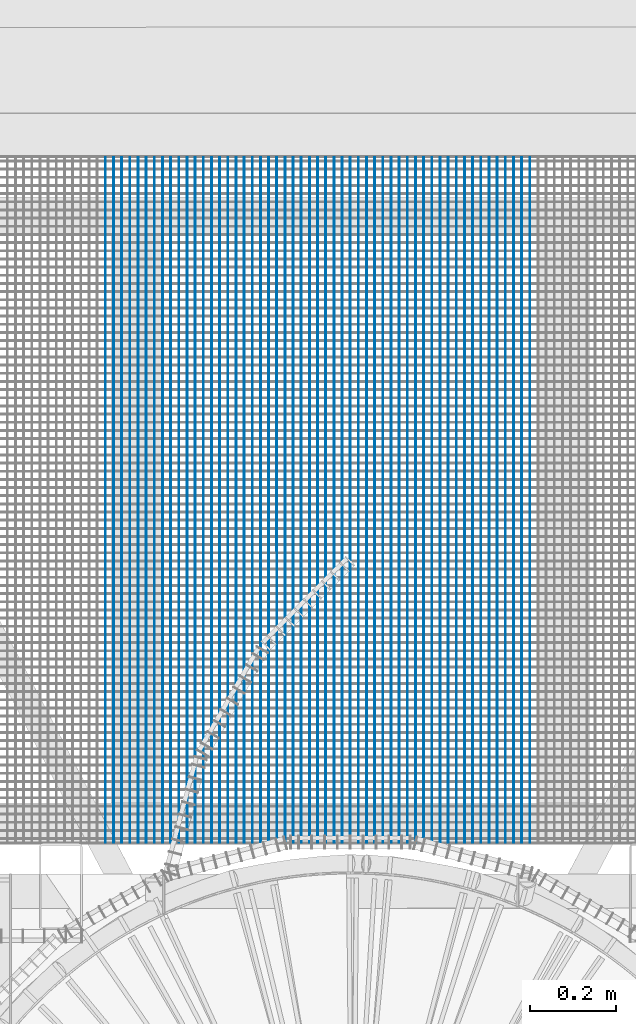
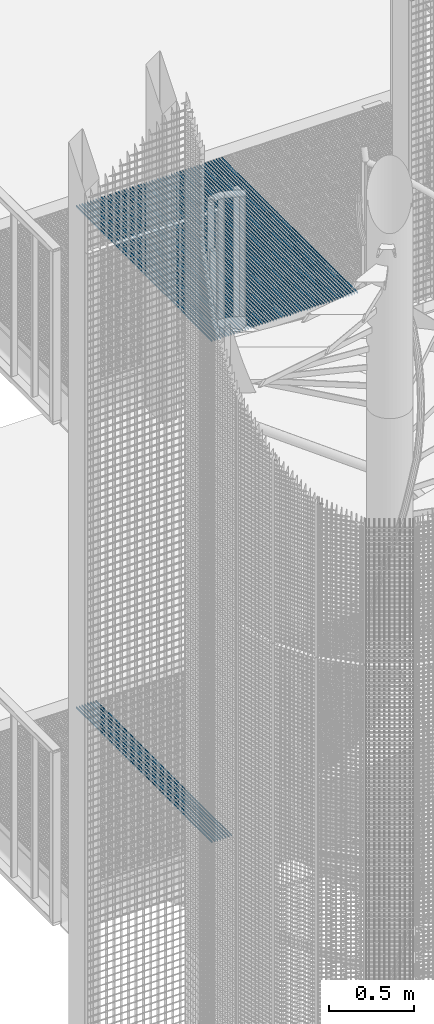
# One storey, part 83 of 1183: 61 beams, 2 elements without a shape of their own.
"""IFC2X3 building model written with IfcOpenShell, lengths in millimetres."""

from ifc_helpers import new_model, si_unit, frame, origin_with_axes, origin_2d_with_axis, place, context, subcontext, project, spatial, rectangle, extrude, material, type_object, element, aggregate, save


model = new_model("IFC2X3")

# Units and contexts
model_context = context("Model", 3, precision=1e-05, world=origin_with_axes())
body_context = subcontext(model_context, "Body", "Model", "MODEL_VIEW")
ifc_project = project(units=[si_unit("LENGTHUNIT", "METRE", prefix="MILLI"), si_unit("AREAUNIT", "SQUARE_METRE"), si_unit("VOLUMEUNIT", "CUBIC_METRE"), si_unit("MASSUNIT", "GRAM", prefix="KILO"), si_unit("TIMEUNIT", "SECOND"), si_unit("PLANEANGLEUNIT", "RADIAN"), si_unit("SOLIDANGLEUNIT", "STERADIAN"), si_unit("THERMODYNAMICTEMPERATUREUNIT", "DEGREE_CELSIUS"), si_unit("LUMINOUSINTENSITYUNIT", "LUMEN")], contexts=[model_context])

# Site, building, storey
site_placement = place(None, origin_with_axes())
site = spatial("IfcSite", under=ifc_project, at=site_placement, Name="Undefined", CompositionType="ELEMENT")
building_placement = place(site_placement, origin_with_axes())
building = spatial("IfcBuilding", under=site, at=building_placement, Name="Undefined", CompositionType="ELEMENT")
storey_placement = place(building_placement, origin_with_axes())
storey = spatial("IfcBuildingStorey", under=building, at=storey_placement, Name="Undefined", CompositionType="ELEMENT", Elevation=0.0)

# Assembly, beams
assembly_1_placement = place(storey_placement, origin_with_axes())
assembly_1 = element("IfcElementAssembly", 1, at=assembly_1_placement, inside=storey, Name="BORDURE", AssemblyPlace="NOTDEFINED", PredefinedType="NOTDEFINED")
ifc_material = material(Name="STEEL/S235JR")
beam_type = type_object("IfcBeamType", Name="PL2*10", PredefinedType="NOTDEFINED")
beam_1_placement = place(assembly_1_placement, frame((-569.924575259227, 1101.99951347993, 10085.0), z_axis=(0.0, 0.0, 1.0), x_axis=(-4.50599999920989e-06, 0.999999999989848, 0.0)))
beam_1 = element("IfcBeam", 2, at=beam_1_placement, type_object=beam_type, material=ifc_material, Name="ENTRETOISE", context=body_context, shape_type="SweptSolid", body=[
    extrude(rectangle(XDim=2.0, YDim=10.0, at=origin_2d_with_axis()), frame((1596.0000000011, -1.35186458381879e-18, -7.27595761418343e-12), z_axis=(-1.0, 0.0, 0.0), x_axis=(0.0, -1.0, 0.0)), (0.0, 0.0, 1.0), 1596.0),
])
beam_2_placement = place(assembly_1_placement, frame((-550.924575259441, 1101.99960699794, 10085.0), z_axis=(0.0, 0.0, 1.0), x_axis=(-4.50599999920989e-06, 0.999999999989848, 0.0)))
beam_2 = element("IfcBeam", 3, at=beam_2_placement, type_object=beam_type, material=ifc_material, Name="ENTRETOISE", context=body_context, shape_type="SweptSolid", body=[
    extrude(rectangle(XDim=2.0, YDim=10.0, at=origin_2d_with_axis()), frame((1596.0000000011, -1.35186458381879e-18, -7.27595761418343e-12), z_axis=(-1.0, 0.0, 0.0), x_axis=(0.0, -1.0, 0.0)), (0.0, 0.0, 1.0), 1596.0),
])
beam_3_placement = place(assembly_1_placement, frame((-531.924575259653, 1101.99970051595, 10085.0), z_axis=(0.0, 0.0, 1.0), x_axis=(-4.50599999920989e-06, 0.999999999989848, 0.0)))
beam_3 = element("IfcBeam", 4, at=beam_3_placement, type_object=beam_type, material=ifc_material, Name="ENTRETOISE", context=body_context, shape_type="SweptSolid", body=[
    extrude(rectangle(XDim=2.0, YDim=10.0, at=origin_2d_with_axis()), frame((1596.0000000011, -1.35186458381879e-18, -7.27595761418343e-12), z_axis=(-1.0, 0.0, 0.0), x_axis=(0.0, -1.0, 0.0)), (0.0, 0.0, 1.0), 1596.0),
])
beam_4_placement = place(assembly_1_placement, frame((-512.924575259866, 1101.99979403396, 10085.0), z_axis=(0.0, 0.0, 1.0), x_axis=(-4.50599999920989e-06, 0.999999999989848, 0.0)))
beam_4 = element("IfcBeam", 5, at=beam_4_placement, type_object=beam_type, material=ifc_material, Name="ENTRETOISE", context=body_context, shape_type="SweptSolid", body=[
    extrude(rectangle(XDim=2.0, YDim=10.0, at=origin_2d_with_axis()), frame((1596.0000000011, -1.35186458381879e-18, -7.27595761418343e-12), z_axis=(-1.0, 0.0, 0.0), x_axis=(0.0, -1.0, 0.0)), (0.0, 0.0, 1.0), 1596.0),
])
beam_5_placement = place(assembly_1_placement, frame((-493.92457526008, 1101.99988755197, 10085.0), z_axis=(0.0, 0.0, 1.0), x_axis=(-4.50599999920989e-06, 0.999999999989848, 0.0)))
beam_5 = element("IfcBeam", 6, at=beam_5_placement, type_object=beam_type, material=ifc_material, Name="ENTRETOISE", context=body_context, shape_type="SweptSolid", body=[
    extrude(rectangle(XDim=2.0, YDim=10.0, at=origin_2d_with_axis()), frame((1596.0000000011, -1.35186458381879e-18, -7.27595761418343e-12), z_axis=(-1.0, 0.0, 0.0), x_axis=(0.0, -1.0, 0.0)), (0.0, 0.0, 1.0), 1596.0),
])
beam_6_placement = place(assembly_1_placement, frame((-474.924575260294, 1101.99998106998, 10085.0), z_axis=(0.0, 0.0, 1.0), x_axis=(-4.50599999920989e-06, 0.999999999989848, 0.0)))
beam_6 = element("IfcBeam", 7, at=beam_6_placement, type_object=beam_type, material=ifc_material, Name="ENTRETOISE", context=body_context, shape_type="SweptSolid", body=[
    extrude(rectangle(XDim=2.0, YDim=10.0, at=origin_2d_with_axis()), frame((1596.0000000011, -1.35186458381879e-18, -7.27595761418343e-12), z_axis=(-1.0, 0.0, 0.0), x_axis=(0.0, -1.0, 0.0)), (0.0, 0.0, 1.0), 1596.0),
])
beam_7_placement = place(assembly_1_placement, frame((-455.924575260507, 1102.00007458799, 10085.0), z_axis=(0.0, 0.0, 1.0), x_axis=(-4.50599999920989e-06, 0.999999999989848, 0.0)))
beam_7 = element("IfcBeam", 8, at=beam_7_placement, type_object=beam_type, material=ifc_material, Name="ENTRETOISE", context=body_context, shape_type="SweptSolid", body=[
    extrude(rectangle(XDim=2.0, YDim=10.0, at=origin_2d_with_axis()), frame((1596.0000000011, -1.35186458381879e-18, -7.27595761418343e-12), z_axis=(-1.0, 0.0, 0.0), x_axis=(0.0, -1.0, 0.0)), (0.0, 0.0, 1.0), 1596.0),
])
beam_8_placement = place(assembly_1_placement, frame((-436.92457526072, 1102.00016810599, 10085.0), z_axis=(0.0, 0.0, 1.0), x_axis=(-4.50599999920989e-06, 0.999999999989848, 0.0)))
beam_8 = element("IfcBeam", 9, at=beam_8_placement, type_object=beam_type, material=ifc_material, Name="ENTRETOISE", context=body_context, shape_type="SweptSolid", body=[
    extrude(rectangle(XDim=2.0, YDim=10.0, at=origin_2d_with_axis()), frame((1596.0000000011, -1.35186458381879e-18, -7.27595761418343e-12), z_axis=(-1.0, 0.0, 0.0), x_axis=(0.0, -1.0, 0.0)), (0.0, 0.0, 1.0), 1596.0),
])
beam_9_placement = place(assembly_1_placement, frame((-417.924575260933, 1102.000261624, 10085.0), z_axis=(0.0, 0.0, 1.0), x_axis=(-4.50599999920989e-06, 0.999999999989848, 0.0)))
beam_9 = element("IfcBeam", 10, at=beam_9_placement, type_object=beam_type, material=ifc_material, Name="ENTRETOISE", context=body_context, shape_type="SweptSolid", body=[
    extrude(rectangle(XDim=2.0, YDim=10.0, at=origin_2d_with_axis()), frame((1596.0000000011, -1.35186458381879e-18, -7.27595761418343e-12), z_axis=(-1.0, 0.0, 0.0), x_axis=(0.0, -1.0, 0.0)), (0.0, 0.0, 1.0), 1596.0),
])
beam_10_placement = place(assembly_1_placement, frame((-398.924575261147, 1102.00035514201, 10085.0), z_axis=(0.0, 0.0, 1.0), x_axis=(-4.50599999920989e-06, 0.999999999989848, 0.0)))
beam_10 = element("IfcBeam", 11, at=beam_10_placement, type_object=beam_type, material=ifc_material, Name="ENTRETOISE", context=body_context, shape_type="SweptSolid", body=[
    extrude(rectangle(XDim=2.0, YDim=10.0, at=origin_2d_with_axis()), frame((1596.0000000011, -1.35186458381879e-18, -7.27595761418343e-12), z_axis=(-1.0, 0.0, 0.0), x_axis=(0.0, -1.0, 0.0)), (0.0, 0.0, 1.0), 1596.0),
])
beam_11_placement = place(assembly_1_placement, frame((-379.92457526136, 1102.00044866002, 10085.0), z_axis=(0.0, 0.0, 1.0), x_axis=(-4.50599999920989e-06, 0.999999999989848, 0.0)))
beam_11 = element("IfcBeam", 12, at=beam_11_placement, type_object=beam_type, material=ifc_material, Name="ENTRETOISE", context=body_context, shape_type="SweptSolid", body=[
    extrude(rectangle(XDim=2.0, YDim=10.0, at=origin_2d_with_axis()), frame((1596.0000000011, -1.35186458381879e-18, -7.27595761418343e-12), z_axis=(-1.0, 0.0, 0.0), x_axis=(0.0, -1.0, 0.0)), (0.0, 0.0, 1.0), 1596.0),
])
beam_12_placement = place(assembly_1_placement, frame((-360.924575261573, 1102.00054217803, 10085.0), z_axis=(0.0, 0.0, 1.0), x_axis=(-4.50599999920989e-06, 0.999999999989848, 0.0)))
beam_12 = element("IfcBeam", 13, at=beam_12_placement, type_object=beam_type, material=ifc_material, Name="ENTRETOISE", context=body_context, shape_type="SweptSolid", body=[
    extrude(rectangle(XDim=2.0, YDim=10.0, at=origin_2d_with_axis()), frame((1596.0000000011, -1.35186458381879e-18, -7.27595761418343e-12), z_axis=(-1.0, 0.0, 0.0), x_axis=(0.0, -1.0, 0.0)), (0.0, 0.0, 1.0), 1596.0),
])
beam_13_placement = place(assembly_1_placement, frame((-341.924575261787, 1102.00063569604, 10085.0), z_axis=(0.0, 0.0, 1.0), x_axis=(-4.50599999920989e-06, 0.999999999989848, 0.0)))
beam_13 = element("IfcBeam", 14, at=beam_13_placement, type_object=beam_type, material=ifc_material, Name="ENTRETOISE", context=body_context, shape_type="SweptSolid", body=[
    extrude(rectangle(XDim=2.0, YDim=10.0, at=origin_2d_with_axis()), frame((1596.0000000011, -1.35186458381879e-18, -7.27595761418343e-12), z_axis=(-1.0, 0.0, 0.0), x_axis=(0.0, -1.0, 0.0)), (0.0, 0.0, 1.0), 1596.0),
])
beam_14_placement = place(assembly_1_placement, frame((-322.924575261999, 1102.00072921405, 10085.0), z_axis=(0.0, 0.0, 1.0), x_axis=(-4.50599999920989e-06, 0.999999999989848, 0.0)))
beam_14 = element("IfcBeam", 15, at=beam_14_placement, type_object=beam_type, material=ifc_material, Name="ENTRETOISE", context=body_context, shape_type="SweptSolid", body=[
    extrude(rectangle(XDim=2.0, YDim=10.0, at=origin_2d_with_axis()), frame((1596.0000000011, -1.35186458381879e-18, -7.27595761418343e-12), z_axis=(-1.0, 0.0, 0.0), x_axis=(0.0, -1.0, 0.0)), (0.0, 0.0, 1.0), 1596.0),
])
beam_15_placement = place(assembly_1_placement, frame((-303.924575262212, 1102.00082273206, 10085.0), z_axis=(0.0, 0.0, 1.0), x_axis=(-4.50599999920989e-06, 0.999999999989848, 0.0)))
beam_15 = element("IfcBeam", 16, at=beam_15_placement, type_object=beam_type, material=ifc_material, Name="ENTRETOISE", context=body_context, shape_type="SweptSolid", body=[
    extrude(rectangle(XDim=2.0, YDim=10.0, at=origin_2d_with_axis()), frame((1596.0000000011, -1.35186458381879e-18, -7.27595761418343e-12), z_axis=(-1.0, 0.0, 0.0), x_axis=(0.0, -1.0, 0.0)), (0.0, 0.0, 1.0), 1596.0),
])
beam_16_placement = place(assembly_1_placement, frame((-284.924575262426, 1102.00091625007, 10085.0), z_axis=(0.0, 0.0, 1.0), x_axis=(-4.50599999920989e-06, 0.999999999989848, 0.0)))
beam_16 = element("IfcBeam", 17, at=beam_16_placement, type_object=beam_type, material=ifc_material, Name="ENTRETOISE", context=body_context, shape_type="SweptSolid", body=[
    extrude(rectangle(XDim=2.0, YDim=10.0, at=origin_2d_with_axis()), frame((1596.0000000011, -1.35186458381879e-18, -7.27595761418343e-12), z_axis=(-1.0, 0.0, 0.0), x_axis=(0.0, -1.0, 0.0)), (0.0, 0.0, 1.0), 1596.0),
])
beam_17_placement = place(assembly_1_placement, frame((-265.924575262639, 1102.00100976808, 10085.0), z_axis=(0.0, 0.0, 1.0), x_axis=(-4.50599999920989e-06, 0.999999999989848, 0.0)))
beam_17 = element("IfcBeam", 18, at=beam_17_placement, type_object=beam_type, material=ifc_material, Name="ENTRETOISE", context=body_context, shape_type="SweptSolid", body=[
    extrude(rectangle(XDim=2.0, YDim=10.0, at=origin_2d_with_axis()), frame((1596.0000000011, -1.35186458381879e-18, -7.27595761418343e-12), z_axis=(-1.0, 0.0, 0.0), x_axis=(0.0, -1.0, 0.0)), (0.0, 0.0, 1.0), 1596.0),
])
beam_18_placement = place(assembly_1_placement, frame((-246.924575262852, 1102.00110328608, 10085.0), z_axis=(0.0, 0.0, 1.0), x_axis=(-4.50599999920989e-06, 0.999999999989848, 0.0)))
beam_18 = element("IfcBeam", 19, at=beam_18_placement, type_object=beam_type, material=ifc_material, Name="ENTRETOISE", context=body_context, shape_type="SweptSolid", body=[
    extrude(rectangle(XDim=2.0, YDim=10.0, at=origin_2d_with_axis()), frame((1596.0000000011, -1.35186458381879e-18, -7.27595761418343e-12), z_axis=(-1.0, 0.0, 0.0), x_axis=(0.0, -1.0, 0.0)), (0.0, 0.0, 1.0), 1596.0),
])
beam_19_placement = place(assembly_1_placement, frame((-227.924575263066, 1102.00119680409, 10085.0), z_axis=(0.0, 0.0, 1.0), x_axis=(-4.50599999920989e-06, 0.999999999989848, 0.0)))
beam_19 = element("IfcBeam", 20, at=beam_19_placement, type_object=beam_type, material=ifc_material, Name="ENTRETOISE", context=body_context, shape_type="SweptSolid", body=[
    extrude(rectangle(XDim=2.0, YDim=10.0, at=origin_2d_with_axis()), frame((1596.0000000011, -1.35186458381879e-18, -7.27595761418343e-12), z_axis=(-1.0, 0.0, 0.0), x_axis=(0.0, -1.0, 0.0)), (0.0, 0.0, 1.0), 1596.0),
])
beam_20_placement = place(assembly_1_placement, frame((-208.924575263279, 1102.0012903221, 10085.0), z_axis=(0.0, 0.0, 1.0), x_axis=(-4.50599999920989e-06, 0.999999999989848, 0.0)))
beam_20 = element("IfcBeam", 21, at=beam_20_placement, type_object=beam_type, material=ifc_material, Name="ENTRETOISE", context=body_context, shape_type="SweptSolid", body=[
    extrude(rectangle(XDim=2.0, YDim=10.0, at=origin_2d_with_axis()), frame((1596.0000000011, -1.35186458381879e-18, -7.27595761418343e-12), z_axis=(-1.0, 0.0, 0.0), x_axis=(0.0, -1.0, 0.0)), (0.0, 0.0, 1.0), 1596.0),
])
beam_21_placement = place(assembly_1_placement, frame((-189.924575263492, 1102.00138384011, 10085.0), z_axis=(0.0, 0.0, 1.0), x_axis=(-4.50599999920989e-06, 0.999999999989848, 0.0)))
beam_21 = element("IfcBeam", 22, at=beam_21_placement, type_object=beam_type, material=ifc_material, Name="ENTRETOISE", context=body_context, shape_type="SweptSolid", body=[
    extrude(rectangle(XDim=2.0, YDim=10.0, at=origin_2d_with_axis()), frame((1596.0000000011, -1.35186458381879e-18, -7.27595761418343e-12), z_axis=(-1.0, 0.0, 0.0), x_axis=(0.0, -1.0, 0.0)), (0.0, 0.0, 1.0), 1596.0),
])
beam_22_placement = place(assembly_1_placement, frame((-170.924575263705, 1102.00147735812, 10085.0), z_axis=(0.0, 0.0, 1.0), x_axis=(-4.50599999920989e-06, 0.999999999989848, 0.0)))
beam_22 = element("IfcBeam", 23, at=beam_22_placement, type_object=beam_type, material=ifc_material, Name="ENTRETOISE", context=body_context, shape_type="SweptSolid", body=[
    extrude(rectangle(XDim=2.0, YDim=10.0, at=origin_2d_with_axis()), frame((1596.0000000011, -1.35186458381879e-18, -7.27595761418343e-12), z_axis=(-1.0, 0.0, 0.0), x_axis=(0.0, -1.0, 0.0)), (0.0, 0.0, 1.0), 1596.0),
])
beam_23_placement = place(assembly_1_placement, frame((-151.924575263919, 1102.00157087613, 10085.0), z_axis=(0.0, 0.0, 1.0), x_axis=(-4.50599999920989e-06, 0.999999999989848, 0.0)))
beam_23 = element("IfcBeam", 24, at=beam_23_placement, type_object=beam_type, material=ifc_material, Name="ENTRETOISE", context=body_context, shape_type="SweptSolid", body=[
    extrude(rectangle(XDim=2.0, YDim=10.0, at=origin_2d_with_axis()), frame((1596.0000000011, -1.35186458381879e-18, -7.27595761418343e-12), z_axis=(-1.0, 0.0, 0.0), x_axis=(0.0, -1.0, 0.0)), (0.0, 0.0, 1.0), 1596.0),
])
beam_24_placement = place(assembly_1_placement, frame((-132.924575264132, 1102.00166439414, 10085.0), z_axis=(0.0, 0.0, 1.0), x_axis=(-4.50599999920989e-06, 0.999999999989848, 0.0)))
beam_24 = element("IfcBeam", 25, at=beam_24_placement, type_object=beam_type, material=ifc_material, Name="ENTRETOISE", context=body_context, shape_type="SweptSolid", body=[
    extrude(rectangle(XDim=2.0, YDim=10.0, at=origin_2d_with_axis()), frame((1596.0000000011, -1.35186458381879e-18, -7.27595761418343e-12), z_axis=(-1.0, 0.0, 0.0), x_axis=(0.0, -1.0, 0.0)), (0.0, 0.0, 1.0), 1596.0),
])
beam_25_placement = place(assembly_1_placement, frame((-113.924575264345, 1102.00175791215, 10085.0), z_axis=(0.0, 0.0, 1.0), x_axis=(-4.50599999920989e-06, 0.999999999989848, 0.0)))
beam_25 = element("IfcBeam", 26, at=beam_25_placement, type_object=beam_type, material=ifc_material, Name="ENTRETOISE", context=body_context, shape_type="SweptSolid", body=[
    extrude(rectangle(XDim=2.0, YDim=10.0, at=origin_2d_with_axis()), frame((1596.0000000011, -1.35186458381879e-18, -7.27595761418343e-12), z_axis=(-1.0, 0.0, 0.0), x_axis=(0.0, -1.0, 0.0)), (0.0, 0.0, 1.0), 1596.0),
])
beam_26_placement = place(assembly_1_placement, frame((-94.9245752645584, 1102.00185143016, 10085.0), z_axis=(0.0, 0.0, 1.0), x_axis=(-4.50599999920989e-06, 0.999999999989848, 0.0)))
beam_26 = element("IfcBeam", 27, at=beam_26_placement, type_object=beam_type, material=ifc_material, Name="ENTRETOISE", context=body_context, shape_type="SweptSolid", body=[
    extrude(rectangle(XDim=2.0, YDim=10.0, at=origin_2d_with_axis()), frame((1596.0000000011, -1.35186458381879e-18, -7.27595761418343e-12), z_axis=(-1.0, 0.0, 0.0), x_axis=(0.0, -1.0, 0.0)), (0.0, 0.0, 1.0), 1596.0),
])
beam_27_placement = place(assembly_1_placement, frame((-75.9245752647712, 1102.00194494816, 10085.0), z_axis=(0.0, 0.0, 1.0), x_axis=(-4.50599999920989e-06, 0.999999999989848, 0.0)))
beam_27 = element("IfcBeam", 28, at=beam_27_placement, type_object=beam_type, material=ifc_material, Name="ENTRETOISE", context=body_context, shape_type="SweptSolid", body=[
    extrude(rectangle(XDim=2.0, YDim=10.0, at=origin_2d_with_axis()), frame((1596.0000000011, -1.35186458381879e-18, -7.27595761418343e-12), z_axis=(-1.0, 0.0, 0.0), x_axis=(0.0, -1.0, 0.0)), (0.0, 0.0, 1.0), 1596.0),
])
beam_28_placement = place(assembly_1_placement, frame((-56.9245752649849, 1102.00203846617, 10085.0), z_axis=(0.0, 0.0, 1.0), x_axis=(-4.50599999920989e-06, 0.999999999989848, 0.0)))
beam_28 = element("IfcBeam", 29, at=beam_28_placement, type_object=beam_type, material=ifc_material, Name="ENTRETOISE", context=body_context, shape_type="SweptSolid", body=[
    extrude(rectangle(XDim=2.0, YDim=10.0, at=origin_2d_with_axis()), frame((1596.0000000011, -1.35186458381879e-18, -7.27595761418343e-12), z_axis=(-1.0, 0.0, 0.0), x_axis=(0.0, -1.0, 0.0)), (0.0, 0.0, 1.0), 1596.0),
])
beam_29_placement = place(assembly_1_placement, frame((-37.9245752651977, 1102.00213198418, 10085.0), z_axis=(0.0, 0.0, 1.0), x_axis=(-4.50599999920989e-06, 0.999999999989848, 0.0)))
beam_29 = element("IfcBeam", 30, at=beam_29_placement, type_object=beam_type, material=ifc_material, Name="ENTRETOISE", context=body_context, shape_type="SweptSolid", body=[
    extrude(rectangle(XDim=2.0, YDim=10.0, at=origin_2d_with_axis()), frame((1596.0000000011, -1.35186458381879e-18, -7.27595761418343e-12), z_axis=(-1.0, 0.0, 0.0), x_axis=(0.0, -1.0, 0.0)), (0.0, 0.0, 1.0), 1596.0),
])
beam_30_placement = place(assembly_1_placement, frame((-18.9245752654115, 1102.00222550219, 10085.0), z_axis=(0.0, 0.0, 1.0), x_axis=(-4.50599999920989e-06, 0.999999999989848, 0.0)))
beam_30 = element("IfcBeam", 31, at=beam_30_placement, type_object=beam_type, material=ifc_material, Name="ENTRETOISE", context=body_context, shape_type="SweptSolid", body=[
    extrude(rectangle(XDim=2.0, YDim=10.0, at=origin_2d_with_axis()), frame((1596.0000000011, -1.35186458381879e-18, -7.27595761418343e-12), z_axis=(-1.0, 0.0, 0.0), x_axis=(0.0, -1.0, 0.0)), (0.0, 0.0, 1.0), 1596.0),
])
beam_31_placement = place(assembly_1_placement, frame((0.075424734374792, 1102.0023190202, 10085.0), z_axis=(0.0, 0.0, 1.0), x_axis=(-4.50599999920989e-06, 0.999999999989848, 0.0)))
beam_31 = element("IfcBeam", 32, at=beam_31_placement, type_object=beam_type, material=ifc_material, Name="ENTRETOISE", context=body_context, shape_type="SweptSolid", body=[
    extrude(rectangle(XDim=2.0, YDim=10.0, at=origin_2d_with_axis()), frame((1596.0000000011, -1.35186458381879e-18, -7.27595761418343e-12), z_axis=(-1.0, 0.0, 0.0), x_axis=(0.0, -1.0, 0.0)), (0.0, 0.0, 1.0), 1596.0),
])
beam_32_placement = place(assembly_1_placement, frame((19.075424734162, 1102.00241253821, 10085.0), z_axis=(0.0, 0.0, 1.0), x_axis=(-4.50599999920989e-06, 0.999999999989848, 0.0)))
beam_32 = element("IfcBeam", 33, at=beam_32_placement, type_object=beam_type, material=ifc_material, Name="ENTRETOISE", context=body_context, shape_type="SweptSolid", body=[
    extrude(rectangle(XDim=2.0, YDim=10.0, at=origin_2d_with_axis()), frame((1596.0000000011, -1.35186458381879e-18, -7.27595761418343e-12), z_axis=(-1.0, 0.0, 0.0), x_axis=(0.0, -1.0, 0.0)), (0.0, 0.0, 1.0), 1596.0),
])
beam_33_placement = place(assembly_1_placement, frame((38.0754247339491, 1102.00250605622, 10085.0), z_axis=(0.0, 0.0, 1.0), x_axis=(-4.50599999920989e-06, 0.999999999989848, 0.0)))
beam_33 = element("IfcBeam", 34, at=beam_33_placement, type_object=beam_type, material=ifc_material, Name="ENTRETOISE", context=body_context, shape_type="SweptSolid", body=[
    extrude(rectangle(XDim=2.0, YDim=10.0, at=origin_2d_with_axis()), frame((1596.0000000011, -1.35186458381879e-18, -7.27595761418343e-12), z_axis=(-1.0, 0.0, 0.0), x_axis=(0.0, -1.0, 0.0)), (0.0, 0.0, 1.0), 1596.0),
])
beam_34_placement = place(assembly_1_placement, frame((57.0754247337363, 1102.00259957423, 10085.0), z_axis=(0.0, 0.0, 1.0), x_axis=(-4.50599999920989e-06, 0.999999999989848, 0.0)))
beam_34 = element("IfcBeam", 35, at=beam_34_placement, type_object=beam_type, material=ifc_material, Name="ENTRETOISE", context=body_context, shape_type="SweptSolid", body=[
    extrude(rectangle(XDim=2.0, YDim=10.0, at=origin_2d_with_axis()), frame((1596.0000000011, -1.35186458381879e-18, -7.27595761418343e-12), z_axis=(-1.0, 0.0, 0.0), x_axis=(0.0, -1.0, 0.0)), (0.0, 0.0, 1.0), 1596.0),
])
beam_35_placement = place(assembly_1_placement, frame((76.0754247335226, 1102.00269309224, 10085.0), z_axis=(0.0, 0.0, 1.0), x_axis=(-4.50599999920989e-06, 0.999999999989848, 0.0)))
beam_35 = element("IfcBeam", 36, at=beam_35_placement, type_object=beam_type, material=ifc_material, Name="ENTRETOISE", context=body_context, shape_type="SweptSolid", body=[
    extrude(rectangle(XDim=2.0, YDim=10.0, at=origin_2d_with_axis()), frame((1596.0000000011, -1.35186458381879e-18, -7.27595761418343e-12), z_axis=(-1.0, 0.0, 0.0), x_axis=(0.0, -1.0, 0.0)), (0.0, 0.0, 1.0), 1596.0),
])
beam_36_placement = place(assembly_1_placement, frame((95.0754247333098, 1102.00278661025, 10085.0), z_axis=(0.0, 0.0, 1.0), x_axis=(-4.50599999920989e-06, 0.999999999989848, 0.0)))
beam_36 = element("IfcBeam", 37, at=beam_36_placement, type_object=beam_type, material=ifc_material, Name="ENTRETOISE", context=body_context, shape_type="SweptSolid", body=[
    extrude(rectangle(XDim=2.0, YDim=10.0, at=origin_2d_with_axis()), frame((1596.0000000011, -1.35186458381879e-18, -7.27595761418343e-12), z_axis=(-1.0, 0.0, 0.0), x_axis=(0.0, -1.0, 0.0)), (0.0, 0.0, 1.0), 1596.0),
])
beam_37_placement = place(assembly_1_placement, frame((114.075424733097, 1102.00288012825, 10085.0), z_axis=(0.0, 0.0, 1.0), x_axis=(-4.50599999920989e-06, 0.999999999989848, 0.0)))
beam_37 = element("IfcBeam", 38, at=beam_37_placement, type_object=beam_type, material=ifc_material, Name="ENTRETOISE", context=body_context, shape_type="SweptSolid", body=[
    extrude(rectangle(XDim=2.0, YDim=10.0, at=origin_2d_with_axis()), frame((1596.0000000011, -1.35186458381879e-18, -7.27595761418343e-12), z_axis=(-1.0, 0.0, 0.0), x_axis=(0.0, -1.0, 0.0)), (0.0, 0.0, 1.0), 1596.0),
])
beam_38_placement = place(assembly_1_placement, frame((133.075424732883, 1102.00297364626, 10085.0), z_axis=(0.0, 0.0, 1.0), x_axis=(-4.50599999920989e-06, 0.999999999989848, 0.0)))
beam_38 = element("IfcBeam", 39, at=beam_38_placement, type_object=beam_type, material=ifc_material, Name="ENTRETOISE", context=body_context, shape_type="SweptSolid", body=[
    extrude(rectangle(XDim=2.0, YDim=10.0, at=origin_2d_with_axis()), frame((1596.0000000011, -1.35186458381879e-18, -7.27595761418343e-12), z_axis=(-1.0, 0.0, 0.0), x_axis=(0.0, -1.0, 0.0)), (0.0, 0.0, 1.0), 1596.0),
])
beam_39_placement = place(assembly_1_placement, frame((152.075424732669, 1102.00306716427, 10085.0), z_axis=(0.0, 0.0, 1.0), x_axis=(-4.50599999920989e-06, 0.999999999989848, 0.0)))
beam_39 = element("IfcBeam", 40, at=beam_39_placement, type_object=beam_type, material=ifc_material, Name="ENTRETOISE", context=body_context, shape_type="SweptSolid", body=[
    extrude(rectangle(XDim=2.0, YDim=10.0, at=origin_2d_with_axis()), frame((1596.0000000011, -1.35186458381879e-18, -7.27595761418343e-12), z_axis=(-1.0, 0.0, 0.0), x_axis=(0.0, -1.0, 0.0)), (0.0, 0.0, 1.0), 1596.0),
])
beam_40_placement = place(assembly_1_placement, frame((171.075424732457, 1102.00316068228, 10085.0), z_axis=(0.0, 0.0, 1.0), x_axis=(-4.50599999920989e-06, 0.999999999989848, 0.0)))
beam_40 = element("IfcBeam", 41, at=beam_40_placement, type_object=beam_type, material=ifc_material, Name="ENTRETOISE", context=body_context, shape_type="SweptSolid", body=[
    extrude(rectangle(XDim=2.0, YDim=10.0, at=origin_2d_with_axis()), frame((1596.0000000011, -1.35186458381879e-18, -7.27595761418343e-12), z_axis=(-1.0, 0.0, 0.0), x_axis=(0.0, -1.0, 0.0)), (0.0, 0.0, 1.0), 1596.0),
])
beam_41_placement = place(assembly_1_placement, frame((190.075424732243, 1102.00325420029, 10085.0), z_axis=(0.0, 0.0, 1.0), x_axis=(-4.50599999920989e-06, 0.999999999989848, 0.0)))
beam_41 = element("IfcBeam", 42, at=beam_41_placement, type_object=beam_type, material=ifc_material, Name="ENTRETOISE", context=body_context, shape_type="SweptSolid", body=[
    extrude(rectangle(XDim=2.0, YDim=10.0, at=origin_2d_with_axis()), frame((1596.0000000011, -1.35186458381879e-18, -7.27595761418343e-12), z_axis=(-1.0, 0.0, 0.0), x_axis=(0.0, -1.0, 0.0)), (0.0, 0.0, 1.0), 1596.0),
])
beam_42_placement = place(assembly_1_placement, frame((209.07542473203, 1102.0033477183, 10085.0), z_axis=(0.0, 0.0, 1.0), x_axis=(-4.50599999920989e-06, 0.999999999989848, 0.0)))
beam_42 = element("IfcBeam", 43, at=beam_42_placement, type_object=beam_type, material=ifc_material, Name="ENTRETOISE", context=body_context, shape_type="SweptSolid", body=[
    extrude(rectangle(XDim=2.0, YDim=10.0, at=origin_2d_with_axis()), frame((1596.0000000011, -1.35186458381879e-18, -7.27595761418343e-12), z_axis=(-1.0, 0.0, 0.0), x_axis=(0.0, -1.0, 0.0)), (0.0, 0.0, 1.0), 1596.0),
])
beam_43_placement = place(assembly_1_placement, frame((228.075424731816, 1102.00344123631, 10085.0), z_axis=(0.0, 0.0, 1.0), x_axis=(-4.50599999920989e-06, 0.999999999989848, 0.0)))
beam_43 = element("IfcBeam", 44, at=beam_43_placement, type_object=beam_type, material=ifc_material, Name="ENTRETOISE", context=body_context, shape_type="SweptSolid", body=[
    extrude(rectangle(XDim=2.0, YDim=10.0, at=origin_2d_with_axis()), frame((1596.0000000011, -1.35186458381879e-18, -7.27595761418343e-12), z_axis=(-1.0, 0.0, 0.0), x_axis=(0.0, -1.0, 0.0)), (0.0, 0.0, 1.0), 1596.0),
])
beam_44_placement = place(assembly_1_placement, frame((247.075424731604, 1102.00353475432, 10085.0), z_axis=(0.0, 0.0, 1.0), x_axis=(-4.50599999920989e-06, 0.999999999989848, 0.0)))
beam_44 = element("IfcBeam", 45, at=beam_44_placement, type_object=beam_type, material=ifc_material, Name="ENTRETOISE", context=body_context, shape_type="SweptSolid", body=[
    extrude(rectangle(XDim=2.0, YDim=10.0, at=origin_2d_with_axis()), frame((1596.0000000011, -1.35186458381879e-18, -7.27595761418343e-12), z_axis=(-1.0, 0.0, 0.0), x_axis=(0.0, -1.0, 0.0)), (0.0, 0.0, 1.0), 1596.0),
])
beam_45_placement = place(assembly_1_placement, frame((266.075424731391, 1102.00362827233, 10085.0), z_axis=(0.0, 0.0, 1.0), x_axis=(-4.50599999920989e-06, 0.999999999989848, 0.0)))
beam_45 = element("IfcBeam", 46, at=beam_45_placement, type_object=beam_type, material=ifc_material, Name="ENTRETOISE", context=body_context, shape_type="SweptSolid", body=[
    extrude(rectangle(XDim=2.0, YDim=10.0, at=origin_2d_with_axis()), frame((1596.0000000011, -1.35186458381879e-18, -7.27595761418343e-12), z_axis=(-1.0, 0.0, 0.0), x_axis=(0.0, -1.0, 0.0)), (0.0, 0.0, 1.0), 1596.0),
])
beam_46_placement = place(assembly_1_placement, frame((285.075424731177, 1102.00372179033, 10085.0), z_axis=(0.0, 0.0, 1.0), x_axis=(-4.50599999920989e-06, 0.999999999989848, 0.0)))
beam_46 = element("IfcBeam", 47, at=beam_46_placement, type_object=beam_type, material=ifc_material, Name="ENTRETOISE", context=body_context, shape_type="SweptSolid", body=[
    extrude(rectangle(XDim=2.0, YDim=10.0, at=origin_2d_with_axis()), frame((1596.0000000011, -1.35186458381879e-18, -7.27595761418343e-12), z_axis=(-1.0, 0.0, 0.0), x_axis=(0.0, -1.0, 0.0)), (0.0, 0.0, 1.0), 1596.0),
])
beam_47_placement = place(assembly_1_placement, frame((304.075424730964, 1102.00381530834, 10085.0), z_axis=(0.0, 0.0, 1.0), x_axis=(-4.50599999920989e-06, 0.999999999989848, 0.0)))
beam_47 = element("IfcBeam", 48, at=beam_47_placement, type_object=beam_type, material=ifc_material, Name="ENTRETOISE", context=body_context, shape_type="SweptSolid", body=[
    extrude(rectangle(XDim=2.0, YDim=10.0, at=origin_2d_with_axis()), frame((1596.0000000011, -1.35186458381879e-18, -7.27595761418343e-12), z_axis=(-1.0, 0.0, 0.0), x_axis=(0.0, -1.0, 0.0)), (0.0, 0.0, 1.0), 1596.0),
])
beam_48_placement = place(assembly_1_placement, frame((323.07542473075, 1102.00390882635, 10085.0), z_axis=(0.0, 0.0, 1.0), x_axis=(-4.50599999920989e-06, 0.999999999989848, 0.0)))
beam_48 = element("IfcBeam", 49, at=beam_48_placement, type_object=beam_type, material=ifc_material, Name="ENTRETOISE", context=body_context, shape_type="SweptSolid", body=[
    extrude(rectangle(XDim=2.0, YDim=10.0, at=origin_2d_with_axis()), frame((1596.0000000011, -1.35186458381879e-18, -7.27595761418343e-12), z_axis=(-1.0, 0.0, 0.0), x_axis=(0.0, -1.0, 0.0)), (0.0, 0.0, 1.0), 1596.0),
])
beam_49_placement = place(assembly_1_placement, frame((342.075424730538, 1102.00400234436, 10085.0), z_axis=(0.0, 0.0, 1.0), x_axis=(-4.50599999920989e-06, 0.999999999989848, 0.0)))
beam_49 = element("IfcBeam", 50, at=beam_49_placement, type_object=beam_type, material=ifc_material, Name="ENTRETOISE", context=body_context, shape_type="SweptSolid", body=[
    extrude(rectangle(XDim=2.0, YDim=10.0, at=origin_2d_with_axis()), frame((1596.0000000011, -1.35186458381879e-18, -7.27595761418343e-12), z_axis=(-1.0, 0.0, 0.0), x_axis=(0.0, -1.0, 0.0)), (0.0, 0.0, 1.0), 1596.0),
])
beam_50_placement = place(assembly_1_placement, frame((361.075424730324, 1102.00409586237, 10085.0), z_axis=(0.0, 0.0, 1.0), x_axis=(-4.50599999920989e-06, 0.999999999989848, 0.0)))
beam_50 = element("IfcBeam", 51, at=beam_50_placement, type_object=beam_type, material=ifc_material, Name="ENTRETOISE", context=body_context, shape_type="SweptSolid", body=[
    extrude(rectangle(XDim=2.0, YDim=10.0, at=origin_2d_with_axis()), frame((1596.0000000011, -1.35186458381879e-18, -7.27595761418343e-12), z_axis=(-1.0, 0.0, 0.0), x_axis=(0.0, -1.0, 0.0)), (0.0, 0.0, 1.0), 1596.0),
])
beam_51_placement = place(assembly_1_placement, frame((380.075424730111, 1102.00418938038, 10085.0), z_axis=(0.0, 0.0, 1.0), x_axis=(-4.50599999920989e-06, 0.999999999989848, 0.0)))
beam_51 = element("IfcBeam", 52, at=beam_51_placement, type_object=beam_type, material=ifc_material, Name="ENTRETOISE", context=body_context, shape_type="SweptSolid", body=[
    extrude(rectangle(XDim=2.0, YDim=10.0, at=origin_2d_with_axis()), frame((1596.0000000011, -1.35186458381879e-18, -7.27595761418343e-12), z_axis=(-1.0, 0.0, 0.0), x_axis=(0.0, -1.0, 0.0)), (0.0, 0.0, 1.0), 1596.0),
])
beam_52_placement = place(assembly_1_placement, frame((399.075424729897, 1102.00428289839, 10085.0), z_axis=(0.0, 0.0, 1.0), x_axis=(-4.50599999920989e-06, 0.999999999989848, 0.0)))
beam_52 = element("IfcBeam", 53, at=beam_52_placement, type_object=beam_type, material=ifc_material, Name="ENTRETOISE", context=body_context, shape_type="SweptSolid", body=[
    extrude(rectangle(XDim=2.0, YDim=10.0, at=origin_2d_with_axis()), frame((1596.0000000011, -1.35186458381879e-18, -7.27595761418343e-12), z_axis=(-1.0, 0.0, 0.0), x_axis=(0.0, -1.0, 0.0)), (0.0, 0.0, 1.0), 1596.0),
])
beam_53_placement = place(assembly_1_placement, frame((418.075424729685, 1102.0043764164, 10085.0), z_axis=(0.0, 0.0, 1.0), x_axis=(-4.50599999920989e-06, 0.999999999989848, 0.0)))
beam_53 = element("IfcBeam", 54, at=beam_53_placement, type_object=beam_type, material=ifc_material, Name="ENTRETOISE", context=body_context, shape_type="SweptSolid", body=[
    extrude(rectangle(XDim=2.0, YDim=10.0, at=origin_2d_with_axis()), frame((1596.0000000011, -1.35186458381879e-18, -7.27595761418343e-12), z_axis=(-1.0, 0.0, 0.0), x_axis=(0.0, -1.0, 0.0)), (0.0, 0.0, 1.0), 1596.0),
])
aggregate(assembly_1, [beam_1, beam_2, beam_3, beam_4, beam_5, beam_6, beam_7, beam_8, beam_9, beam_10, beam_11, beam_12, beam_13, beam_14, beam_15, beam_16, beam_17, beam_18, beam_19, beam_20, beam_21, beam_22, beam_23, beam_24, beam_25, beam_26, beam_27, beam_28, beam_29, beam_30, beam_31, beam_32, beam_33, beam_34, beam_35, beam_36, beam_37, beam_38, beam_39, beam_40, beam_41, beam_42, beam_43, beam_44, beam_45, beam_46, beam_47, beam_48, beam_49, beam_50, beam_51, beam_52, beam_53])

assembly_2_placement = place(storey_placement, origin_with_axes())
assembly_2 = element("IfcElementAssembly", 55, at=assembly_2_placement, inside=storey, Name="BORDURE", AssemblyPlace="NOTDEFINED", PredefinedType="NOTDEFINED")
beam_54_placement = place(assembly_2_placement, frame((-569.924575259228, 1101.99951347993, 6485.0), z_axis=(0.0, 0.0, 1.0), x_axis=(-4.50599999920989e-06, 0.999999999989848, 0.0)))
beam_54 = element("IfcBeam", 56, at=beam_54_placement, type_object=beam_type, material=ifc_material, Name="ENTRETOISE", context=body_context, shape_type="SweptSolid", body=[
    extrude(rectangle(XDim=2.0, YDim=10.0, at=origin_2d_with_axis()), frame((1596.0000000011, -1.35186458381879e-18, -7.27595761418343e-12), z_axis=(-1.0, 0.0, 0.0), x_axis=(0.0, -1.0, 0.0)), (0.0, 0.0, 1.0), 1596.0),
])
beam_55_placement = place(assembly_2_placement, frame((-550.924575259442, 1101.99960699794, 6485.0), z_axis=(0.0, 0.0, 1.0), x_axis=(-4.50599999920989e-06, 0.999999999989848, 0.0)))
beam_55 = element("IfcBeam", 57, at=beam_55_placement, type_object=beam_type, material=ifc_material, Name="ENTRETOISE", context=body_context, shape_type="SweptSolid", body=[
    extrude(rectangle(XDim=2.0, YDim=10.0, at=origin_2d_with_axis()), frame((1596.0000000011, -1.35186458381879e-18, -7.27595761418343e-12), z_axis=(-1.0, 0.0, 0.0), x_axis=(0.0, -1.0, 0.0)), (0.0, 0.0, 1.0), 1596.0),
])
beam_56_placement = place(assembly_2_placement, frame((-531.924575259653, 1101.99970051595, 6485.0), z_axis=(0.0, 0.0, 1.0), x_axis=(-4.50599999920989e-06, 0.999999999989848, 0.0)))
beam_56 = element("IfcBeam", 58, at=beam_56_placement, type_object=beam_type, material=ifc_material, Name="ENTRETOISE", context=body_context, shape_type="SweptSolid", body=[
    extrude(rectangle(XDim=2.0, YDim=10.0, at=origin_2d_with_axis()), frame((1596.0000000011, -1.35186458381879e-18, -7.27595761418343e-12), z_axis=(-1.0, 0.0, 0.0), x_axis=(0.0, -1.0, 0.0)), (0.0, 0.0, 1.0), 1596.0),
])
beam_57_placement = place(assembly_2_placement, frame((-512.924575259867, 1101.99979403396, 6485.0), z_axis=(0.0, 0.0, 1.0), x_axis=(-4.50599999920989e-06, 0.999999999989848, 0.0)))
beam_57 = element("IfcBeam", 59, at=beam_57_placement, type_object=beam_type, material=ifc_material, Name="ENTRETOISE", context=body_context, shape_type="SweptSolid", body=[
    extrude(rectangle(XDim=2.0, YDim=10.0, at=origin_2d_with_axis()), frame((1596.0000000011, -1.35186458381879e-18, -7.27595761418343e-12), z_axis=(-1.0, 0.0, 0.0), x_axis=(0.0, -1.0, 0.0)), (0.0, 0.0, 1.0), 1596.0),
])
beam_58_placement = place(assembly_2_placement, frame((-493.92457526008, 1101.99988755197, 6485.0), z_axis=(0.0, 0.0, 1.0), x_axis=(-4.50599999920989e-06, 0.999999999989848, 0.0)))
beam_58 = element("IfcBeam", 60, at=beam_58_placement, type_object=beam_type, material=ifc_material, Name="ENTRETOISE", context=body_context, shape_type="SweptSolid", body=[
    extrude(rectangle(XDim=2.0, YDim=10.0, at=origin_2d_with_axis()), frame((1596.0000000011, -1.35186458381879e-18, -7.27595761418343e-12), z_axis=(-1.0, 0.0, 0.0), x_axis=(0.0, -1.0, 0.0)), (0.0, 0.0, 1.0), 1596.0),
])
beam_59_placement = place(assembly_2_placement, frame((-474.924575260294, 1101.99998106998, 6485.0), z_axis=(0.0, 0.0, 1.0), x_axis=(-4.50599999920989e-06, 0.999999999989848, 0.0)))
beam_59 = element("IfcBeam", 61, at=beam_59_placement, type_object=beam_type, material=ifc_material, Name="ENTRETOISE", context=body_context, shape_type="SweptSolid", body=[
    extrude(rectangle(XDim=2.0, YDim=10.0, at=origin_2d_with_axis()), frame((1596.0000000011, -1.35186458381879e-18, -7.27595761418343e-12), z_axis=(-1.0, 0.0, 0.0), x_axis=(0.0, -1.0, 0.0)), (0.0, 0.0, 1.0), 1596.0),
])
beam_60_placement = place(assembly_2_placement, frame((-455.924575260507, 1102.00007458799, 6485.0), z_axis=(0.0, 0.0, 1.0), x_axis=(-4.50599999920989e-06, 0.999999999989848, 0.0)))
beam_60 = element("IfcBeam", 62, at=beam_60_placement, type_object=beam_type, material=ifc_material, Name="ENTRETOISE", context=body_context, shape_type="SweptSolid", body=[
    extrude(rectangle(XDim=2.0, YDim=10.0, at=origin_2d_with_axis()), frame((1596.0000000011, -1.35186458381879e-18, -7.27595761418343e-12), z_axis=(-1.0, 0.0, 0.0), x_axis=(0.0, -1.0, 0.0)), (0.0, 0.0, 1.0), 1596.0),
])
beam_61_placement = place(assembly_2_placement, frame((-436.92457526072, 1102.00016810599, 6485.0), z_axis=(0.0, 0.0, 1.0), x_axis=(-4.50599999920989e-06, 0.999999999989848, 0.0)))
beam_61 = element("IfcBeam", 63, at=beam_61_placement, type_object=beam_type, material=ifc_material, Name="ENTRETOISE", context=body_context, shape_type="SweptSolid", body=[
    extrude(rectangle(XDim=2.0, YDim=10.0, at=origin_2d_with_axis()), frame((1596.0000000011, -1.35186458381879e-18, -7.27595761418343e-12), z_axis=(-1.0, 0.0, 0.0), x_axis=(0.0, -1.0, 0.0)), (0.0, 0.0, 1.0), 1596.0),
])
aggregate(assembly_2, [beam_54, beam_55, beam_56, beam_57, beam_58, beam_59, beam_60, beam_61])

save(model, "model.ifc")
